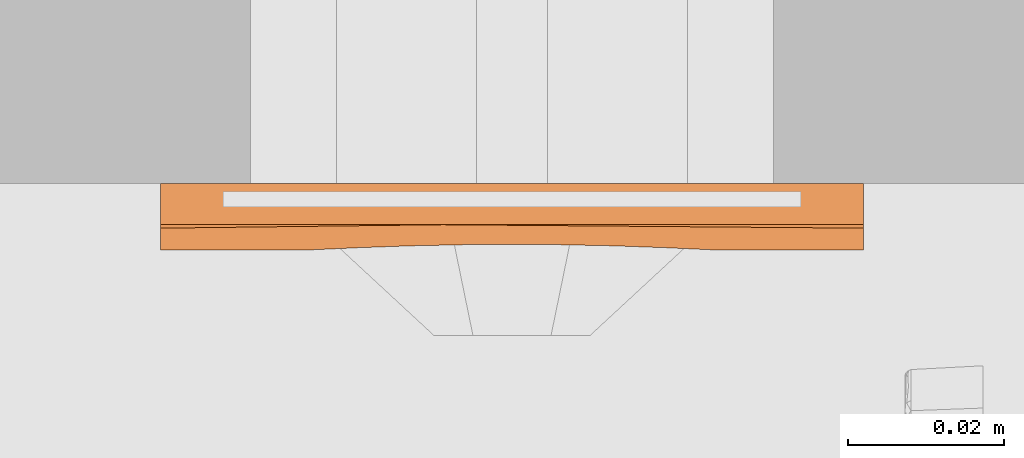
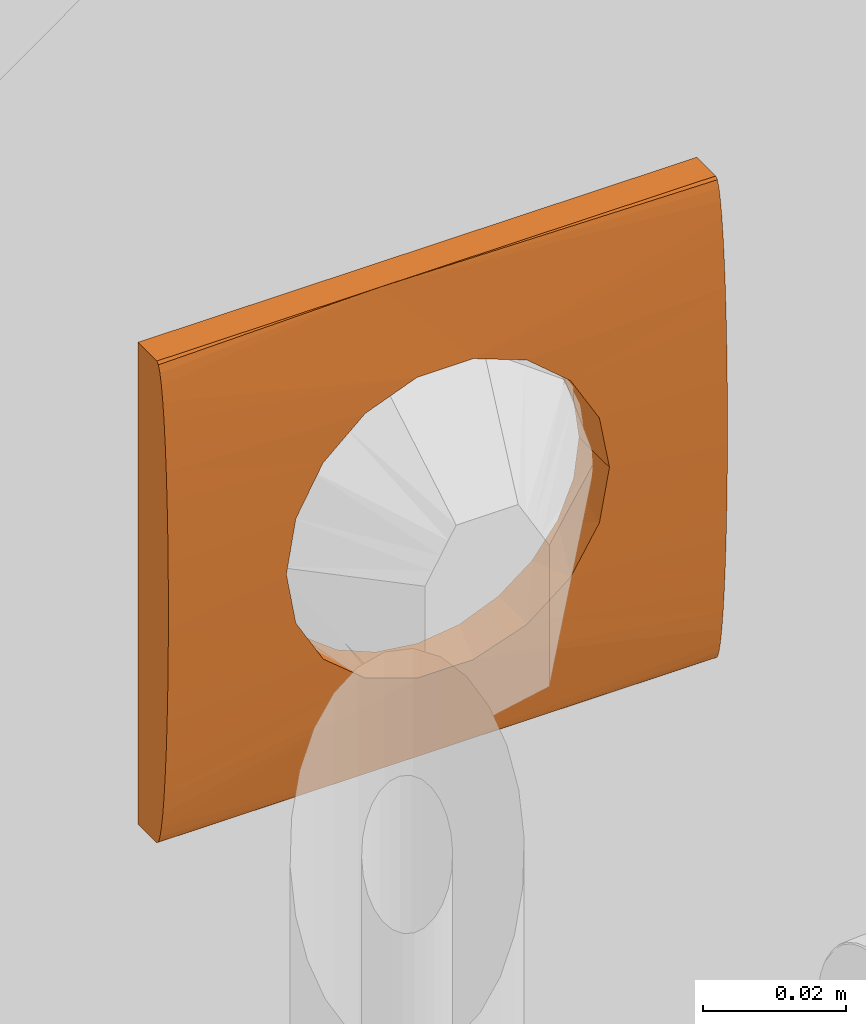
# One storey, part 29 of 30: 1 proxy.
"""IFC2X3 building model written with IfcOpenShell, lengths in metres."""

from ifc_helpers import new_model, entity, si_unit, converted_unit, derived_unit, direction, frame, origin, place, context, subcontext, project, spatial, faceted_brep, source, transform, mapped, material, type_object, type_shapes, element, save


model = new_model("IFC2X3")

# Units and contexts
model_context = context("Model", 3, precision=1e-05, world=origin(), true_north=direction((6.123031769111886e-17, 1.0)))
body_context = subcontext(model_context, "Body", "Model", "MODEL_VIEW")
ifc_project = project(units=[si_unit("LENGTHUNIT", "METRE"), si_unit("AREAUNIT", "SQUARE_METRE"), si_unit("VOLUMEUNIT", "CUBIC_METRE"), converted_unit("PLANEANGLEUNIT", "DEGREE", entity("IfcPlaneAngleMeasure", 0.017453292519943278), si_unit("PLANEANGLEUNIT", "RADIAN"), dimensions=[0, 0, 0, 0, 0, 0, 0]), si_unit("MASSUNIT", "GRAM", prefix="KILO"), derived_unit("MASSDENSITYUNIT", [(si_unit("MASSUNIT", "GRAM", prefix="KILO"), 1), (si_unit("LENGTHUNIT", "METRE"), -3)]), derived_unit("IONCONCENTRATIONUNIT", [(si_unit("MASSUNIT", "GRAM", prefix="KILO"), 1), (si_unit("LENGTHUNIT", "METRE"), -3)]), derived_unit("MOMENTOFINERTIAUNIT", [(si_unit("LENGTHUNIT", "METRE"), 4)]), si_unit("TIMEUNIT", "SECOND"), si_unit("FREQUENCYUNIT", "HERTZ"), si_unit("THERMODYNAMICTEMPERATUREUNIT", "DEGREE_CELSIUS"), derived_unit("THERMALTRANSMITTANCEUNIT", [(si_unit("MASSUNIT", "GRAM", prefix="KILO"), 1), (si_unit("THERMODYNAMICTEMPERATUREUNIT", "KELVIN"), -1), (si_unit("TIMEUNIT", "SECOND"), -3)]), derived_unit("THERMALCONDUCTANCEUNIT", [(si_unit("MASSUNIT", "GRAM", prefix="KILO"), 1), (si_unit("THERMODYNAMICTEMPERATUREUNIT", "KELVIN"), -1), (si_unit("TIMEUNIT", "SECOND"), -3), (si_unit("LENGTHUNIT", "METRE"), 1)]), derived_unit("VOLUMETRICFLOWRATEUNIT", [(si_unit("LENGTHUNIT", "METRE", prefix="DECI"), 3), (si_unit("TIMEUNIT", "SECOND"), -1)]), derived_unit("MASSFLOWRATEUNIT", [(si_unit("MASSUNIT", "GRAM", prefix="KILO"), 1), (si_unit("TIMEUNIT", "SECOND"), -1)]), derived_unit("ROTATIONALFREQUENCYUNIT", [(si_unit("TIMEUNIT", "SECOND"), -1)]), si_unit("ELECTRICCURRENTUNIT", "AMPERE"), si_unit("ELECTRICVOLTAGEUNIT", "VOLT"), si_unit("POWERUNIT", "WATT"), si_unit("FORCEUNIT", "NEWTON", prefix="KILO"), si_unit("ILLUMINANCEUNIT", "LUX"), si_unit("LUMINOUSFLUXUNIT", "LUMEN"), si_unit("LUMINOUSINTENSITYUNIT", "CANDELA"), si_unit("ENERGYUNIT", "JOULE"), derived_unit("USERDEFINED", [(si_unit("MASSUNIT", "GRAM", prefix="KILO"), -1), (si_unit("LENGTHUNIT", "METRE"), -2), (si_unit("TIMEUNIT", "SECOND"), 3), (si_unit("LUMINOUSFLUXUNIT", "LUMEN"), 1)]), derived_unit("USERDEFINED", [(si_unit("MASSUNIT", "GRAM", prefix="KILO"), 1), (si_unit("TIMEUNIT", "SECOND"), -3), (si_unit("LENGTHUNIT", "METRE"), 3), (si_unit("ELECTRICCURRENTUNIT", "AMPERE"), -2)]), derived_unit("SOUNDPOWERUNIT", [(si_unit("MASSUNIT", "GRAM", prefix="KILO"), 1), (si_unit("TIMEUNIT", "SECOND"), -3), (si_unit("LENGTHUNIT", "METRE"), 2)]), derived_unit("SOUNDPRESSUREUNIT", [(si_unit("MASSUNIT", "GRAM", prefix="KILO"), 1), (si_unit("LENGTHUNIT", "METRE"), -1), (si_unit("TIMEUNIT", "SECOND"), -2)]), derived_unit("LINEARVELOCITYUNIT", [(si_unit("LENGTHUNIT", "METRE"), 1), (si_unit("TIMEUNIT", "SECOND"), -1)]), si_unit("PRESSUREUNIT", "PASCAL"), derived_unit("USERDEFINED", [(si_unit("MASSUNIT", "GRAM", prefix="KILO"), 1), (si_unit("LENGTHUNIT", "METRE"), -2), (si_unit("TIMEUNIT", "SECOND"), -2)]), derived_unit("LINEARFORCEUNIT", [(si_unit("MASSUNIT", "GRAM", prefix="KILO"), 1), (si_unit("TIMEUNIT", "SECOND"), -2)]), derived_unit("PLANARFORCEUNIT", [(si_unit("MASSUNIT", "GRAM", prefix="KILO"), 1), (si_unit("LENGTHUNIT", "METRE"), -1), (si_unit("TIMEUNIT", "SECOND"), -2)]), derived_unit("SPECIFICHEATCAPACITYUNIT", [(si_unit("THERMODYNAMICTEMPERATUREUNIT", "KELVIN"), -1), (si_unit("LENGTHUNIT", "METRE"), 2), (si_unit("TIMEUNIT", "SECOND"), -2)]), derived_unit("HEATFLUXDENSITYUNIT", [(si_unit("MASSUNIT", "GRAM", prefix="KILO"), 1), (si_unit("TIMEUNIT", "SECOND"), -3)]), derived_unit("HEATINGVALUEUNIT", [(si_unit("LENGTHUNIT", "METRE"), 2), (si_unit("TIMEUNIT", "SECOND"), -2)]), derived_unit("VAPORPERMEABILITYUNIT", [(si_unit("LENGTHUNIT", "METRE"), -1), (si_unit("TIMEUNIT", "SECOND"), 1)]), derived_unit("DYNAMICVISCOSITYUNIT", [(si_unit("MASSUNIT", "GRAM", prefix="KILO"), 1), (si_unit("TIMEUNIT", "SECOND"), -1), (si_unit("LENGTHUNIT", "METRE"), -1)]), derived_unit("THERMALEXPANSIONCOEFFICIENTUNIT", [(si_unit("THERMODYNAMICTEMPERATUREUNIT", "KELVIN"), -1)]), derived_unit("MODULUSOFELASTICITYUNIT", [(si_unit("MASSUNIT", "GRAM", prefix="KILO"), 1), (si_unit("LENGTHUNIT", "METRE"), -1), (si_unit("TIMEUNIT", "SECOND"), -2)]), derived_unit("ISOTHERMALMOISTURECAPACITYUNIT", [(si_unit("MASSUNIT", "GRAM", prefix="KILO"), -1), (si_unit("LENGTHUNIT", "METRE"), 3)]), derived_unit("MOISTUREDIFFUSIVITYUNIT", [(si_unit("TIMEUNIT", "SECOND"), -1), (si_unit("LENGTHUNIT", "METRE"), 2)]), derived_unit("MASSPERLENGTHUNIT", [(si_unit("MASSUNIT", "GRAM", prefix="KILO"), 1), (si_unit("LENGTHUNIT", "METRE"), -1)]), derived_unit("THERMALRESISTANCEUNIT", [(si_unit("MASSUNIT", "GRAM", prefix="KILO"), -1), (si_unit("TIMEUNIT", "SECOND"), 3), (si_unit("THERMODYNAMICTEMPERATUREUNIT", "KELVIN"), 1)]), derived_unit("ACCELERATIONUNIT", [(si_unit("LENGTHUNIT", "METRE"), 1), (si_unit("TIMEUNIT", "SECOND"), -2)]), derived_unit("ANGULARVELOCITYUNIT", [(si_unit("TIMEUNIT", "SECOND"), -1), (si_unit("PLANEANGLEUNIT", "RADIAN"), 1)]), derived_unit("LINEARSTIFFNESSUNIT", [(si_unit("MASSUNIT", "GRAM", prefix="KILO"), 1), (si_unit("TIMEUNIT", "SECOND"), -2)]), derived_unit("WARPINGCONSTANTUNIT", [(si_unit("LENGTHUNIT", "METRE"), 6)]), derived_unit("LINEARMOMENTUNIT", [(si_unit("MASSUNIT", "GRAM", prefix="KILO"), 1), (si_unit("LENGTHUNIT", "METRE"), 1), (si_unit("TIMEUNIT", "SECOND"), -2)]), derived_unit("TORQUEUNIT", [(si_unit("MASSUNIT", "GRAM", prefix="KILO"), 1), (si_unit("LENGTHUNIT", "METRE"), 2), (si_unit("TIMEUNIT", "SECOND"), -2)])], contexts=[model_context])

# Site, building, storey
site_placement = place(None, origin())
site = spatial("IfcSite", under=ifc_project, at=site_placement, Name="Default", CompositionType="ELEMENT")
building_placement = place(site_placement, origin())
building = spatial("IfcBuilding", under=site, at=building_placement, CompositionType="ELEMENT")
storey_placement = place(building_placement, origin())
storey = spatial("IfcBuildingStorey", under=building, at=storey_placement, Name="Niveau 0", CompositionType="ELEMENT", Elevation=-1.949160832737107e-14)

# Proxy
ifc_material = material(Name="Plastique, blanc opaque")
building_element_proxy_type = type_object("IfcBuildingElementProxyType", Name="Legrand plaque2:1 poste", PredefinedType="NOTDEFINED", material=ifc_material)
shared_shape = source(origin(), body_context, "Body", "Brep", [
    faceted_brep([(0.1699999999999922, 0.10663792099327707, -1.7972310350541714), (0.1699999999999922, 0.10705393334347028, -1.7953570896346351), (0.1699999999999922, 0.10744593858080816, -1.7927826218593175), (0.1699999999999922, 0.10780663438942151, -1.7895555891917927), (0.1699999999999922, 0.10812930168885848, -1.7857361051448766), (0.1699999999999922, 0.1084079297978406, -1.781395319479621), (0.1699999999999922, 0.10863732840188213, -1.7766140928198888), (0.1699999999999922, 0.10881322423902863, -1.771481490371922), (0.1699999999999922, 0.10893234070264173, -1.7660931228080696), (0.1699999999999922, 0.10899245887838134, -1.760549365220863), (0.1699999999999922, 0.10899245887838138, -1.7549534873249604), (0.1699999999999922, 0.10893234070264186, -1.7494097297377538), (0.1699999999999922, 0.10881322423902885, -1.7440213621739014), (0.1699999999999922, 0.10863732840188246, -1.7388887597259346), (0.1699999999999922, 0.108407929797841, -1.7341075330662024), (0.1699999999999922, 0.10812930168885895, -1.7297667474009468), (0.1699999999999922, 0.10780663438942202, -1.7259472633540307), (0.1699999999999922, 0.10744593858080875, -1.7227202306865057), (0.1699999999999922, 0.10705393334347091, -1.720145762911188), (0.1699999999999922, 0.10663792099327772, -1.718271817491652), (0.1699999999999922, 0.10620565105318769, -1.717133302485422), (0.1699999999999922, 0.10576517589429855, -1.7167514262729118), (0.1699999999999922, 0.10050000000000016, -1.7167514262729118), (0.1699999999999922, 0.10050000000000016, -1.7987514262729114), (0.1699999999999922, 0.10576517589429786, -1.7987514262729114), (0.1699999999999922, 0.10620565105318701, -1.7983695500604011), (0.07999999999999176, 0.10893234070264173, -1.7660931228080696), (0.07999999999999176, 0.10881322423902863, -1.771481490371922), (0.07999999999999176, 0.10863732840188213, -1.7766140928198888), (0.07999999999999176, 0.1084079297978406, -1.781395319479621), (0.07999999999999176, 0.10812930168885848, -1.7857361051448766), (0.07999999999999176, 0.10780663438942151, -1.7895555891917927), (0.07999999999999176, 0.10744593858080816, -1.7927826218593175), (0.07999999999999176, 0.10705393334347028, -1.7953570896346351), (0.07999999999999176, 0.10663792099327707, -1.7972310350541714), (0.07999999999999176, 0.10620565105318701, -1.7983695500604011), (0.07999999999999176, 0.10576517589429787, -1.7987514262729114), (0.07999999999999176, 0.10050000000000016, -1.7987514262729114), (0.07999999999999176, 0.10050000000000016, -1.7167514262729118), (0.07999999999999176, 0.10576517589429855, -1.7167514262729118), (0.07999999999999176, 0.10620565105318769, -1.717133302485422), (0.07999999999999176, 0.10663792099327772, -1.718271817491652), (0.07999999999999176, 0.10705393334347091, -1.720145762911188), (0.07999999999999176, 0.10744593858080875, -1.7227202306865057), (0.07999999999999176, 0.10780663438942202, -1.7259472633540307), (0.07999999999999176, 0.10812930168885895, -1.7297667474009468), (0.07999999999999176, 0.108407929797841, -1.7341075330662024), (0.07999999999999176, 0.10863732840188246, -1.7388887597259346), (0.07999999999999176, 0.10881322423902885, -1.7440213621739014), (0.07999999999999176, 0.10893234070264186, -1.7494097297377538), (0.07999999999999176, 0.10899245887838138, -1.7549534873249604), (0.07999999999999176, 0.10899245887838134, -1.760549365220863), (0.13383419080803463, 0.10576517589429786, -1.7987514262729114), (0.1295157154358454, 0.10829163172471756, -1.783356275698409), (0.12048889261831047, 0.10829158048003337, -1.7833570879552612), (0.1338341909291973, 0.10576517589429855, -1.7167514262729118), (0.13799797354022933, 0.10846845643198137, -1.7802692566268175), (0.14491763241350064, 0.10871907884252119, -1.7744633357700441), (0.14942915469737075, 0.10892286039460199, -1.7666517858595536), (0.14145780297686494, 0.10859376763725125, -1.7773662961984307), (0.15021457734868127, 0.10896143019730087, -1.7622016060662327), (0.15099999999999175, 0.10899999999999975, -1.7577514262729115), (0.11200101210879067, 0.10846848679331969, -1.7802686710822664), (0.11624495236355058, 0.10838003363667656, -1.7818128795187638), (0.10057214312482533, 0.10892279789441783, -1.7666553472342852), (0.10509052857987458, 0.1087187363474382, -1.774473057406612), (0.09899999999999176, 0.10899999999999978, -1.7577514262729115), (0.09978607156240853, 0.1089613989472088, -1.7622033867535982), (0.14942915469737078, 0.10892286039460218, -1.7488510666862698), (0.14491763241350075, 0.10871907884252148, -1.7410395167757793), (0.14145780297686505, 0.10859376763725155, -1.7381365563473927), (0.1379979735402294, 0.10846845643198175, -1.7352335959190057), (0.12951571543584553, 0.10829163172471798, -1.7321465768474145), (0.1005721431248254, 0.10892279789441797, -1.748847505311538), (0.09978607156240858, 0.10896139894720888, -1.7532994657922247), (0.10509052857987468, 0.10871873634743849, -1.741029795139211), (0.1120010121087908, 0.10846848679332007, -1.735234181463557), (0.12048889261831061, 0.10829158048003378, -1.7321457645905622), (0.11624495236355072, 0.10838003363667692, -1.7336899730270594), (0.15021457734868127, 0.10896143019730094, -1.7533012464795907), (0.14751666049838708, 0.10050000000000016, -1.7447514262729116), (0.1501140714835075, 0.10050000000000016, -1.7510221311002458), (0.1433847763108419, 0.10050000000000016, -1.7393666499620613), (0.15099999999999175, 0.10050000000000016, -1.757751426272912), (0.13799999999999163, 0.10050000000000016, -1.7352347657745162), (0.13172929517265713, 0.10050000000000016, -1.7326373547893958), (0.12499999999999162, 0.10050000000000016, -1.7317514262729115), (0.11827070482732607, 0.10050000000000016, -1.7326373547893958), (0.11199999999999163, 0.10050000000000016, -1.7352347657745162), (0.10661522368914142, 0.10050000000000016, -1.7393666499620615), (0.10248333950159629, 0.10050000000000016, -1.7447514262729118), (0.09988592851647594, 0.10050000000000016, -1.7510221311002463), (0.09899999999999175, 0.10050000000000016, -1.757751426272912), (0.09988592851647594, 0.10050000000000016, -1.764480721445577), (0.10248333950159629, 0.10050000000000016, -1.7707514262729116), (0.10661522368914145, 0.10050000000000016, -1.7761362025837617), (0.11199999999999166, 0.10050000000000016, -1.780268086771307), (0.11827070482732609, 0.10050000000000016, -1.7828654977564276), (0.12499999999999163, 0.10050000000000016, -1.7837514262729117), (0.1501140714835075, 0.10050000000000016, -1.7644807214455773), (0.1475166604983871, 0.10050000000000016, -1.7707514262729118), (0.1433847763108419, 0.10050000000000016, -1.776136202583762), (0.13799999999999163, 0.10050000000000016, -1.7802680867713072), (0.1317292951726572, 0.10050000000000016, -1.7828654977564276)], [[[0, 1, 2, 3, 4, 5, 6, 7, 8, 9, 10, 11, 12, 13, 14, 15, 16, 17, 18, 19, 20, 21, 22, 23, 24, 25]], [[26, 27, 28, 29, 30, 31, 32, 33, 34, 35, 36, 37, 38, 39, 40, 41, 42, 43, 44, 45, 46, 47, 48, 49, 50, 51]], [[24, 23, 37, 36, 52]], [[0, 52, 1]], [[53, 1, 52]], [[54, 53, 52]], [[3, 2, 53]], [[55, 42, 41]], [[56, 5, 4]], [[56, 4, 3]], [[1, 53, 2]], [[7, 6, 57]], [[8, 7, 58]], [[9, 8, 58]], [[5, 56, 59, 57]], [[9, 58, 60, 61]], [[58, 7, 57]], [[61, 10, 9]], [[6, 5, 57]], [[3, 53, 56]], [[55, 21, 20]], [[39, 55, 40]], [[54, 32, 31]], [[31, 62, 63, 54]], [[30, 62, 31]], [[54, 33, 32]], [[52, 36, 35]], [[52, 25, 24]], [[35, 34, 52]], [[52, 34, 33]], [[0, 25, 52]], [[30, 29, 62]], [[27, 64, 65]], [[29, 65, 62]], [[65, 29, 28]], [[27, 26, 64]], [[65, 28, 27]], [[64, 26, 51]], [[51, 66, 67, 64]], [[33, 54, 52]], [[12, 11, 68]], [[13, 12, 69]], [[14, 13, 69]], [[68, 11, 10]], [[69, 12, 68]], [[14, 69, 70, 71]], [[71, 15, 14]], [[19, 55, 20]], [[18, 17, 72]], [[41, 40, 55]], [[72, 16, 71]], [[15, 71, 16]], [[72, 17, 16]], [[19, 18, 55]], [[50, 73, 74, 66]], [[46, 75, 47]], [[48, 75, 73]], [[49, 73, 50]], [[48, 73, 49]], [[48, 47, 75]], [[46, 76, 75]], [[51, 50, 66]], [[46, 45, 76]], [[44, 77, 78, 76]], [[44, 76, 45]], [[44, 43, 77]], [[72, 77, 55]], [[43, 42, 77]], [[18, 72, 55]], [[55, 77, 42]], [[10, 61, 79, 68]], [[22, 21, 55, 39, 38]], [[22, 80, 81]], [[80, 22, 82]], [[22, 81, 83]], [[84, 82, 22]], [[85, 84, 22]], [[86, 85, 22]], [[22, 38, 86]], [[83, 23, 22]], [[87, 86, 38]], [[88, 87, 38]], [[89, 88, 38]], [[38, 90, 89]], [[90, 38, 91]], [[92, 91, 38]], [[38, 37, 92]], [[93, 92, 37]], [[94, 93, 37]], [[37, 95, 94]], [[95, 37, 96]], [[97, 96, 37]], [[98, 97, 37]], [[98, 37, 23]], [[23, 83, 99]], [[23, 99, 100]], [[100, 101, 23]], [[101, 102, 23]], [[102, 103, 23]], [[23, 103, 98]], [[93, 64, 67]], [[93, 67, 92]], [[97, 54, 63]], [[97, 63, 96]], [[65, 64, 94]], [[83, 61, 60]], [[62, 65, 95]], [[93, 94, 64]], [[92, 67, 66]], [[95, 96, 62]], [[65, 94, 95]], [[56, 102, 59]], [[97, 98, 54]], [[62, 96, 63]], [[101, 57, 59]], [[101, 59, 102]], [[56, 53, 103]], [[60, 58, 99]], [[100, 58, 57]], [[103, 102, 56]], [[53, 98, 103]], [[101, 100, 57]], [[99, 83, 60]], [[100, 99, 58]], [[54, 98, 53]], [[81, 68, 79]], [[70, 69, 82]], [[91, 92, 74]], [[85, 72, 71]], [[69, 68, 80]], [[70, 84, 71]], [[81, 80, 68]], [[83, 79, 61]], [[84, 70, 82]], [[69, 80, 82]], [[84, 85, 71]], [[85, 86, 72]], [[81, 79, 83]], [[78, 77, 87]], [[75, 76, 89]], [[78, 88, 76]], [[74, 73, 91]], [[90, 73, 75]], [[92, 66, 74]], [[88, 78, 87]], [[77, 86, 87]], [[89, 90, 75]], [[76, 88, 89]], [[90, 91, 73]], [[72, 86, 77]]]),
])
type_shapes(building_element_proxy_type, [shared_shape])
proxy_placement = place(storey_placement, frame((-20.357065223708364, 2.969026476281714, 3.8087514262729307), z_axis=(0.0, 0.0, 1.0), x_axis=(-1.0, 0.0, 0.0)))
element("IfcBuildingElementProxy", 1, at=proxy_placement, inside=storey, type_object=building_element_proxy_type, material=ifc_material, Name="Legrand plaque2:1 poste", ObjectType="Legrand plaque2:1 poste", context=body_context, shape_type="MappedRepresentation", body=[
    mapped(shared_shape, transform((0.0, 0.0, 0.0), scale=1.0)),
])

save(model, "model.ifc")
